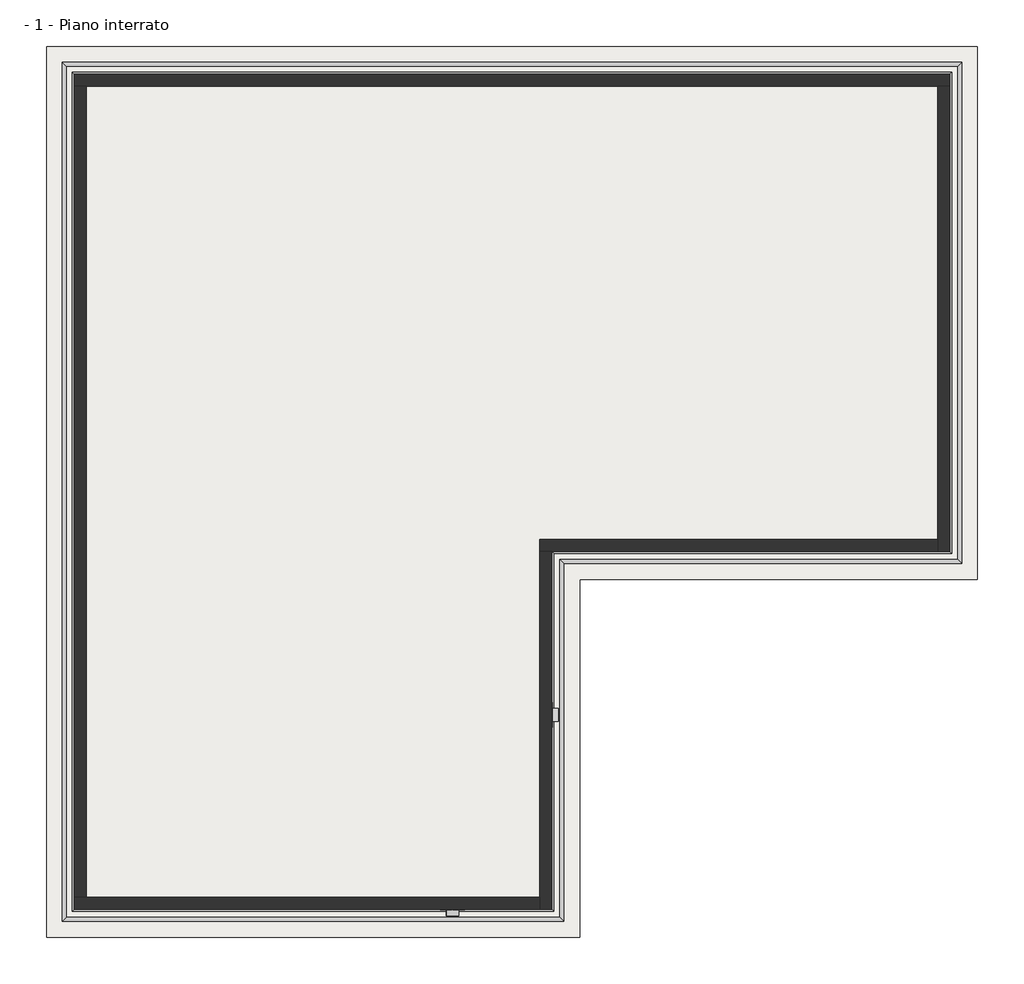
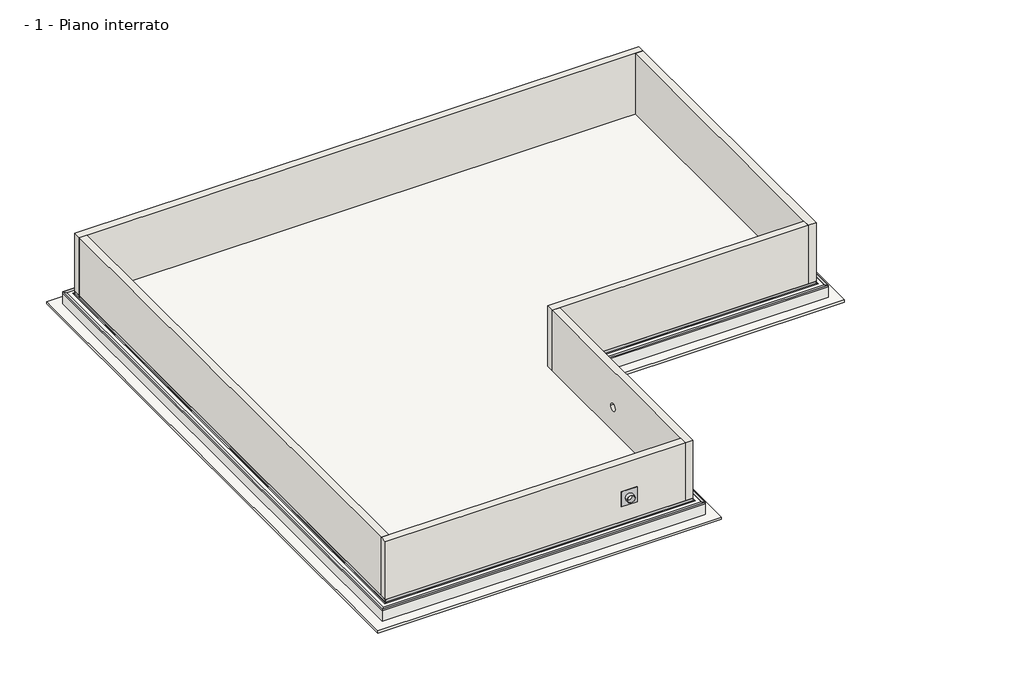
# One storey: 6 proxies, 6 walls, 2 slabs.
"""IFC4 building model written with IfcOpenShell, lengths in millimetres."""

from ifc_helpers import new_model, si_unit, frame, origin, place, context, project, spatial, polyline, circle_curve, outline, extrude, faceted_brep, transform, mapped, element, save
from ifc_brep_helpers import plane_surface, revolved_surface, advanced_brep
from components import generic_models_91e2fdae

model = new_model("IFC4")

# Units and contexts
model_context = context("Model", 3, world=origin())
ifc_project = project(units=[si_unit("LENGTHUNIT", "METRE", prefix="MILLI")], contexts=[model_context])

# Site, building, storey
site = spatial("IfcSite", under=ifc_project)
building = spatial("IfcBuilding", under=site)
storey = spatial("IfcBuildingStorey", under=building, Name="- 1 - Piano interrato", Elevation=-2500.0)

# Proxies
placement = place(None, origin())
element("IfcBuildingElementProxy", 1, Name="AMPHIBIA CORNER 90° VOLTECO", ObjectType="AMPHIBIA CORNER 90° VOLTECO", at=placement, inside=storey, context=model_context, shape_type="Brep", body=[
    faceted_brep([(14179.6527437, 12233.9025562, -2550.0), (14178.6527437, 12232.9025562, -2550.0), (-8421.3472563, 12232.9025562, -2550.0), (-8422.3472563, 12233.9025562, -2550.0), (14179.6527437, 12233.9025562, -2499.0), (-8422.3472563, 12233.9025562, -2499.0), (14078.6527437, 12132.9025562, -2499.0), (-8321.3472563, 12132.9025562, -2499.0), (14078.6527437, 12132.9025562, -2500.0), (-8321.3472563, 12132.9025562, -2500.0), (14178.6527437, 12232.9025562, -2500.0), (-8421.3472563, 12232.9025562, -2500.0), (-8421.3472563, -9367.0974438, -2550.0), (-8422.3472563, -9368.0974438, -2550.0), (-8422.3472563, -9368.0974438, -2499.0), (-8321.3472563, -9267.0974438, -2499.0), (-8321.3472563, -9267.0974438, -2500.0), (-8421.3472563, -9367.0974438, -2500.0), (4178.6527437, -9367.0974438, -2550.0), (4179.6527437, -9368.0974438, -2550.0), (4179.6527437, -9368.0974438, -2499.0), (4078.6527437, -9267.0974438, -2499.0), (4078.6527437, -9267.0974438, -2500.0), (4178.6527437, -9367.0974438, -2500.0), (4178.6527437, -367.0974438, -2550.0), (4179.6527437, -368.0974438, -2550.0), (4179.6527437, -368.0974438, -2499.0), (4078.6527437, -267.0974438, -2499.0), (4078.6527437, -267.0974438, -2500.0), (4178.6527437, -367.0974438, -2500.0), (14178.6527437, -367.0974438, -2550.0), (14179.6527437, -368.0974438, -2550.0), (14179.6527437, -368.0974438, -2499.0), (14078.6527437, -267.0974438, -2499.0), (14078.6527437, -267.0974438, -2500.0), (14178.6527437, -367.0974438, -2500.0)], [[[0, 1, 2, 3]], [[4, 0, 3, 5]], [[6, 4, 5, 7]], [[8, 6, 7, 9]], [[10, 8, 9, 11]], [[1, 10, 11, 2]], [[3, 2, 12, 13]], [[5, 3, 13, 14]], [[7, 5, 14, 15]], [[9, 7, 15, 16]], [[11, 9, 16, 17]], [[2, 11, 17, 12]], [[13, 12, 18, 19]], [[14, 13, 19, 20]], [[15, 14, 20, 21]], [[16, 15, 21, 22]], [[17, 16, 22, 23]], [[12, 17, 23, 18]], [[19, 18, 24, 25]], [[20, 19, 25, 26]], [[21, 20, 26, 27]], [[22, 21, 27, 28]], [[23, 22, 28, 29]], [[18, 23, 29, 24]], [[25, 24, 30, 31]], [[26, 25, 31, 32]], [[27, 26, 32, 33]], [[28, 27, 33, 34]], [[29, 28, 34, 35]], [[24, 29, 35, 30]], [[1, 0, 31, 30]], [[0, 4, 32, 31]], [[4, 6, 33, 32]], [[6, 8, 34, 33]], [[8, 10, 35, 34]], [[10, 1, 30, 35]]]),
])
element("IfcBuildingElementProxy", 2, Name="AKTI-VO 201 VOLTECO", ObjectType="AKTI-VO 201 VOLTECO", at=placement, inside=storey, context=model_context, shape_type="SweptSolid", body=[
    extrude(outline(polyline([(13902.5527437, 11956.8025562), (13903.5527437, 11957.8025562), (13903.5527437, -91.9974438), (13902.5527437, -90.9974438), (13902.5527437, 11956.8025562)])), frame((0.0, 0.0, -2500.0), z_axis=(0.0, 0.0, 1.0), x_axis=(1.0, 0.0, 0.0)), (0.0, 0.0, 1.0), 1.0),
    extrude(outline(polyline([(13902.5527437, -90.9974438), (13903.5527437, -91.9974438), (3903.5527437, -91.9974438), (3902.5527437, -90.9974438), (13902.5527437, -90.9974438)])), frame((0.0, 0.0, -2500.0), z_axis=(0.0, 0.0, 1.0), x_axis=(1.0, 0.0, 0.0)), (0.0, 0.0, 1.0), 1.0),
    extrude(outline(polyline([(3902.5527437, -90.9974438), (3903.5527437, -91.9974438), (3903.5527437, -9091.9974438), (3902.5527437, -9090.9974438), (3902.5527437, -90.9974438)])), frame((0.0, 0.0, -2500.0), z_axis=(0.0, 0.0, 1.0), x_axis=(1.0, 0.0, 0.0)), (0.0, 0.0, 1.0), 1.0),
    extrude(outline(polyline([(3902.5527437, -9090.9974438), (3903.5527437, -9091.9974438), (-8146.2472563, -9091.9974438), (-8145.2472563, -9090.9974438), (3902.5527437, -9090.9974438)])), frame((0.0, 0.0, -2500.0), z_axis=(0.0, 0.0, 1.0), x_axis=(1.0, 0.0, 0.0)), (0.0, 0.0, 1.0), 1.0),
    extrude(outline(polyline([(-8145.2472563, 11956.8025562), (-8146.2472563, 11957.8025562), (13903.5527437, 11957.8025562), (13902.5527437, 11956.8025562), (-8145.2472563, 11956.8025562)])), frame((0.0, 0.0, -2500.0), z_axis=(0.0, 0.0, 1.0), x_axis=(1.0, 0.0, 0.0)), (0.0, 0.0, 1.0), 1.0),
    extrude(outline(polyline([(-8145.2472563, -9090.9974438), (-8146.2472563, -9091.9974438), (-8146.2472563, 11957.8025562), (-8145.2472563, 11956.8025562), (-8145.2472563, -9090.9974438)])), frame((0.0, 0.0, -2500.0), z_axis=(0.0, 0.0, 1.0), x_axis=(1.0, 0.0, 0.0)), (0.0, 0.0, 1.0), 1.0),
])
element("IfcBuildingElementProxy", 3, Name="AMPHIBIA CORNER 270° VOLTECO", ObjectType="AMPHIBIA CORNER 270° VOLTECO", at=placement, inside=storey, context=model_context, shape_type="Brep", body=[
    faceted_brep([(13929.6527437, 11983.9025562, -2498.0), (13929.6527437, 11983.9025562, -2499.0), (13878.6527437, 11932.9025562, -2499.0), (13878.6527437, 11932.9025562, -2398.0), (13879.6527437, 11933.9025562, -2398.0), (13879.6527437, 11933.9025562, -2498.0), (13929.6527437, -118.0974438, -2498.0), (13879.6527437, -68.0974438, -2498.0), (13879.6527437, -68.0974438, -2398.0), (13878.6527437, -67.0974438, -2398.0), (13878.6527437, -67.0974438, -2499.0), (13929.6527437, -118.0974438, -2499.0)], [[[0, 1, 2, 3, 4, 5]], [[6, 7, 8, 9, 10, 11]], [[1, 0, 6, 11]], [[2, 1, 11, 10]], [[3, 2, 10, 9]], [[4, 3, 9, 8]], [[5, 4, 8, 7]], [[0, 5, 7, 6]]]),
    faceted_brep([(-8172.3472563, 11983.9025562, -2498.0), (-8172.3472563, 11983.9025562, -2499.0), (-8121.3472563, 11932.9025562, -2499.0), (-8121.3472563, 11932.9025562, -2398.0), (-8122.3472563, 11933.9025562, -2398.0), (-8122.3472563, 11933.9025562, -2498.0), (13929.6527437, 11983.9025562, -2498.0), (13879.6527437, 11933.9025562, -2498.0), (13879.6527437, 11933.9025562, -2398.0), (13878.6527437, 11932.9025562, -2398.0), (13878.6527437, 11932.9025562, -2499.0), (13929.6527437, 11983.9025562, -2499.0)], [[[0, 1, 2, 3, 4, 5]], [[6, 7, 8, 9, 10, 11]], [[1, 0, 6, 11]], [[2, 1, 11, 10]], [[3, 2, 10, 9]], [[4, 3, 9, 8]], [[5, 4, 8, 7]], [[0, 5, 7, 6]]]),
    faceted_brep([(-8172.3472563, -9118.0974438, -2498.0), (-8172.3472563, -9118.0974438, -2499.0), (-8121.3472563, -9067.0974438, -2499.0), (-8121.3472563, -9067.0974438, -2398.0), (-8122.3472563, -9068.0974438, -2398.0), (-8122.3472563, -9068.0974438, -2498.0), (-8172.3472563, 11983.9025562, -2498.0), (-8122.3472563, 11933.9025562, -2498.0), (-8122.3472563, 11933.9025562, -2398.0), (-8121.3472563, 11932.9025562, -2398.0), (-8121.3472563, 11932.9025562, -2499.0), (-8172.3472563, 11983.9025562, -2499.0)], [[[0, 1, 2, 3, 4, 5]], [[6, 7, 8, 9, 10, 11]], [[1, 0, 6, 11]], [[2, 1, 11, 10]], [[3, 2, 10, 9]], [[4, 3, 9, 8]], [[5, 4, 8, 7]], [[0, 5, 7, 6]]]),
    faceted_brep([(3929.6527437, -9118.0974438, -2498.0), (3929.6527437, -9118.0974438, -2499.0), (3878.6527437, -9067.0974438, -2499.0), (3878.6527437, -9067.0974438, -2398.0), (3879.6527437, -9068.0974438, -2398.0), (3879.6527437, -9068.0974438, -2498.0), (-8172.3472563, -9118.0974438, -2498.0), (-8122.3472563, -9068.0974438, -2498.0), (-8122.3472563, -9068.0974438, -2398.0), (-8121.3472563, -9067.0974438, -2398.0), (-8121.3472563, -9067.0974438, -2499.0), (-8172.3472563, -9118.0974438, -2499.0)], [[[0, 1, 2, 3, 4, 5]], [[6, 7, 8, 9, 10, 11]], [[1, 0, 6, 11]], [[2, 1, 11, 10]], [[3, 2, 10, 9]], [[4, 3, 9, 8]], [[5, 4, 8, 7]], [[0, 5, 7, 6]]]),
    faceted_brep([(3929.6527437, -118.0974438, -2498.0), (3929.6527437, -118.0974438, -2499.0), (3878.6527437, -67.0974438, -2499.0), (3878.6527437, -67.0974438, -2398.0), (3879.6527437, -68.0974438, -2398.0), (3879.6527437, -68.0974438, -2498.0), (3929.6527437, -9118.0974438, -2498.0), (3879.6527437, -9068.0974438, -2498.0), (3879.6527437, -9068.0974438, -2398.0), (3878.6527437, -9067.0974438, -2398.0), (3878.6527437, -9067.0974438, -2499.0), (3929.6527437, -9118.0974438, -2499.0)], [[[0, 1, 2, 3, 4, 5]], [[6, 7, 8, 9, 10, 11]], [[1, 0, 6, 11]], [[2, 1, 11, 10]], [[3, 2, 10, 9]], [[4, 3, 9, 8]], [[5, 4, 8, 7]], [[0, 5, 7, 6]]]),
    faceted_brep([(13929.6527437, -118.0974438, -2498.0), (13929.6527437, -118.0974438, -2499.0), (13878.6527437, -67.0974438, -2499.0), (13878.6527437, -67.0974438, -2398.0), (13879.6527437, -68.0974438, -2398.0), (13879.6527437, -68.0974438, -2498.0), (3929.6527437, -118.0974438, -2498.0), (3879.6527437, -68.0974438, -2498.0), (3879.6527437, -68.0974438, -2398.0), (3878.6527437, -67.0974438, -2398.0), (3878.6527437, -67.0974438, -2499.0), (3929.6527437, -118.0974438, -2499.0)], [[[0, 1, 2, 3, 4, 5]], [[6, 7, 8, 9, 10, 11]], [[1, 0, 6, 11]], [[2, 1, 11, 10]], [[3, 2, 10, 9]], [[4, 3, 9, 8]], [[5, 4, 8, 7]], [[0, 5, 7, 6]]]),
])
element("IfcBuildingElementProxy", 4, Name="WT 102 Volteco", ObjectType="WT 102 Volteco", at=placement, inside=storey, context=model_context, shape_type="SweptSolid", body=[
    extrude(outline(polyline([(3718.6527437, 92.9025562), (3738.6527437, 72.9025562), (3738.6527437, -8927.0974438), (3718.6527437, -8907.0974438), (3718.6527437, 92.9025562)])), frame((0.0, 0.0, -2500.0), z_axis=(0.0, 0.0, 1.0), x_axis=(1.0, 0.0, 0.0)), (0.0, 0.0, 1.0), 20.0),
    extrude(outline(polyline([(3718.6527437, -8907.0974438), (3738.6527437, -8927.0974438), (-7981.3472563, -8927.0974438), (-7961.3472563, -8907.0974438), (3718.6527437, -8907.0974438)])), frame((0.0, 0.0, -2500.0), z_axis=(0.0, 0.0, 1.0), x_axis=(1.0, 0.0, 0.0)), (0.0, 0.0, 1.0), 20.0),
    extrude(outline(polyline([(-7961.3472563, -8907.0974438), (-7981.3472563, -8927.0974438), (-7981.3472563, 11792.9025562), (-7961.3472563, 11772.9025562), (-7961.3472563, -8907.0974438)])), frame((0.0, 0.0, -2500.0), z_axis=(0.0, 0.0, 1.0), x_axis=(1.0, 0.0, 0.0)), (0.0, 0.0, 1.0), 20.0),
    extrude(outline(polyline([(-7961.3472563, 11772.9025562), (-7981.3472563, 11792.9025562), (13738.6527437, 11792.9025562), (13718.6527437, 11772.9025562), (-7961.3472563, 11772.9025562)])), frame((0.0, 0.0, -2500.0), z_axis=(0.0, 0.0, 1.0), x_axis=(1.0, 0.0, 0.0)), (0.0, 0.0, 1.0), 20.0),
    extrude(outline(polyline([(13718.6527437, 11772.9025562), (13738.6527437, 11792.9025562), (13738.6527437, 72.9025562), (13718.6527437, 92.9025562), (13718.6527437, 11772.9025562)])), frame((0.0, 0.0, -2500.0), z_axis=(0.0, 0.0, 1.0), x_axis=(1.0, 0.0, 0.0)), (0.0, 0.0, 1.0), 20.0),
    extrude(outline(polyline([(13718.6527437, 92.9025562), (13738.6527437, 72.9025562), (3738.6527437, 72.9025562), (3718.6527437, 92.9025562), (13718.6527437, 92.9025562)])), frame((0.0, 0.0, -2500.0), z_axis=(0.0, 0.0, 1.0), x_axis=(1.0, 0.0, 0.0)), (0.0, 0.0, 1.0), 20.0),
])
generic_models_shape = generic_models_91e2fdae(model_context)
element("IfcBuildingElementProxy", 5, Name="ENG-Volteco_Amphibia Pipe : ENG-Volteco_Amphibia Pipe", ObjectType="ENG-Volteco_Amphibia Pipe : ENG-Volteco_Amphibia Pipe", at=placement, inside=storey, context=model_context, shape_type="MappedRepresentation", body=[
    mapped(generic_models_shape, transform((3878.6527437, -4175.0974438, -1509.7375596), x_axis=(0.0, 1.0, 0.0), y_axis=(0.0, 0.0, 1.0), z_axis=(1.0, 0.0, 0.0))),
])
element("IfcBuildingElementProxy", 6, Name="ENG-Volteco_Amphibia Pipe : ENG-Volteco_Amphibia Pipe", ObjectType="ENG-Volteco_Amphibia Pipe : ENG-Volteco_Amphibia Pipe", at=placement, inside=storey, context=model_context, shape_type="MappedRepresentation", body=[
    mapped(generic_models_shape, transform((1381.6527437, -9067.0974438, -1461.6877544), x_axis=(1.0, 0.0, 0.0), y_axis=(0.0, 0.0, 1.0), z_axis=(0.0, -1.0, 0.0))),
])

# Slabs
element("IfcSlab", 7, ObjectType="Blinding concrete - 10 cm", at=placement, inside=storey, context=model_context, shape_type="SweptSolid", body=[
    extrude(outline(polyline([(14578.6527437, 12632.9025562), (14578.6527437, -767.0974438), (4578.6527437, -767.0974438), (4578.6527437, -9767.0974438), (-8821.3472563, -9767.0974438), (-8821.3472563, 12632.9025562), (14578.6527437, 12632.9025562)])), frame((0.0, 0.0, -3100.0), z_axis=(0.0, 0.0, 1.0), x_axis=(1.0, 0.0, 0.0)), (0.0, 0.0, 1.0), 100.0),
])
element("IfcSlab", 8, ObjectType="Raft foundation - 50 cm", at=placement, inside=storey, context=model_context, shape_type="Brep", body=[
    faceted_brep([(14178.6527437, 12232.9025562, -3000.0), (14178.6527437, -367.0974438, -3000.0), (4178.6527437, -367.0974438, -3000.0), (4178.6527437, -9367.0974438, -3000.0), (-8421.3472563, -9367.0974438, -3000.0), (-8421.3472563, 12232.9025562, -3000.0), (14178.6527437, 12232.9025562, -2500.0), (-8421.3472563, 12232.9025562, -2500.0), (-8421.3472563, -9367.0974438, -2500.0), (4178.6527437, -9367.0974438, -2500.0), (4178.6527437, -367.0974438, -2500.0), (14178.6527437, -367.0974438, -2500.0), (14178.6527437, 12232.9025562, -2550.0), (14178.6527437, -367.0974438, -2550.0), (4178.6527437, -367.0974438, -2550.0), (4178.6527437, -9367.0974438, -2550.0), (-8421.3472563, -9367.0974438, -2550.0), (-8421.3472563, 12232.9025562, -2550.0)], [[[0, 1, 2, 3, 4, 5]], [[6, 7, 8, 9, 10, 11]], [[1, 0, 12, 6, 11, 13]], [[2, 1, 13, 11, 10, 14]], [[3, 2, 14, 10, 9, 15]], [[4, 3, 15, 9, 8, 16]], [[5, 4, 16, 8, 7, 17]], [[0, 5, 17, 7, 6, 12]]]),
])

# Walls
element("IfcWall", 9, ObjectType="Foundation walls - 30 cm", at=placement, inside=storey, context=model_context, shape_type="Brep", body=[
    faceted_brep([(13878.6527437, 11632.9025562, 0.0), (13578.6527437, 11632.9025562, 0.0), (-7821.3472563, 11632.9025562, 0.0), (-8121.3472563, 11632.9025562, 0.0), (-8121.3472563, 11632.9025562, -60.0), (-8121.3472563, 11632.9025562, -2398.0), (-8121.3472563, 11632.9025562, -2499.0), (-8121.3472563, 11632.9025562, -2500.0), (-7981.3472563, 11632.9025562, -2500.0), (-7981.3472563, 11632.9025562, -2480.0), (-7961.3472563, 11632.9025562, -2480.0), (-7961.3472563, 11632.9025562, -2500.0), (-7821.3472563, 11632.9025562, -2500.0), (13578.6527437, 11632.9025562, -2500.0), (13718.6527437, 11632.9025562, -2500.0), (13718.6527437, 11632.9025562, -2480.0), (13738.6527437, 11632.9025562, -2480.0), (13738.6527437, 11632.9025562, -2500.0), (13878.6527437, 11632.9025562, -2500.0), (13878.6527437, 11632.9025562, -2499.0), (13878.6527437, 11632.9025562, -2398.0), (13878.6527437, 11632.9025562, -60.0), (-8121.3472563, 11932.9025562, 0.0), (13878.6527437, 11932.9025562, 0.0), (13878.6527437, 11932.9025562, -60.0), (13878.6527437, 11932.9025562, -2398.0), (13878.6527437, 11932.9025562, -2499.0), (13878.6527437, 11932.9025562, -2500.0), (-8121.3472563, 11932.9025562, -2500.0), (-8121.3472563, 11932.9025562, -2499.0), (-8121.3472563, 11932.9025562, -2398.0), (-8121.3472563, 11932.9025562, -60.0), (13738.6527437, 11792.9025562, -2500.0), (-7981.3472563, 11792.9025562, -2500.0), (-7961.3472563, 11772.9025562, -2500.0), (13718.6527437, 11772.9025562, -2500.0), (-7961.3472563, 11772.9025562, -2480.0), (13718.6527437, 11772.9025562, -2480.0), (-7981.3472563, 11792.9025562, -2480.0), (13738.6527437, 11792.9025562, -2480.0)], [[[0, 1, 2, 3, 4, 5, 6, 7, 8, 9, 10, 11, 12, 13, 14, 15, 16, 17, 18, 19, 20, 21]], [[22, 23, 24, 25, 26, 27, 28, 29, 30, 31]], [[3, 2, 1, 0, 23, 22]], [[23, 0, 21, 20, 19, 18, 27, 26, 25, 24]], [[3, 22, 31, 30, 29, 28, 7, 6, 5, 4]], [[7, 28, 27, 18, 17, 32, 33, 8]], [[14, 13, 12, 11, 34, 35]], [[10, 36, 34, 11]], [[15, 37, 36, 10, 9, 38, 39, 16]], [[35, 37, 15, 14]], [[37, 35, 34, 36]], [[33, 38, 9, 8]], [[39, 38, 33, 32]], [[39, 32, 17, 16]]]),
])
element("IfcWall", 10, ObjectType="Foundation walls - 30 cm", at=placement, inside=storey, context=model_context, shape_type="Brep", body=[
    faceted_brep([(13578.6527437, -67.0974438, 0.0), (13578.6527437, 232.9025562, 0.0), (13578.6527437, 11632.9025562, 0.0), (13578.6527437, 11632.9025562, -2500.0), (13578.6527437, 232.9025562, -2500.0), (13578.6527437, 92.9025562, -2500.0), (13578.6527437, 92.9025562, -2480.0), (13578.6527437, 72.9025562, -2480.0), (13578.6527437, 72.9025562, -2500.0), (13578.6527437, -67.0974438, -2500.0), (13578.6527437, -67.0974438, -2499.0), (13578.6527437, -67.0974438, -2398.0), (13578.6527437, -67.0974438, -60.0), (13878.6527437, 11632.9025562, 0.0), (13878.6527437, -67.0974438, 0.0), (13878.6527437, -67.0974438, -60.0), (13878.6527437, -67.0974438, -2398.0), (13878.6527437, -67.0974438, -2499.0), (13878.6527437, -67.0974438, -2500.0), (13878.6527437, 11632.9025562, -2500.0), (13878.6527437, 11632.9025562, -2499.0), (13878.6527437, 11632.9025562, -2398.0), (13878.6527437, 11632.9025562, -60.0), (13738.6527437, 11632.9025562, -2500.0), (13738.6527437, 11632.9025562, -2480.0), (13718.6527437, 11632.9025562, -2480.0), (13718.6527437, 11632.9025562, -2500.0), (13738.6527437, 72.9025562, -2500.0), (13718.6527437, 92.9025562, -2500.0), (13718.6527437, 92.9025562, -2480.0), (13738.6527437, 72.9025562, -2480.0)], [[[0, 1, 2, 3, 4, 5, 6, 7, 8, 9, 10, 11, 12]], [[13, 14, 15, 16, 17, 18, 19, 20, 21, 22]], [[2, 1, 0, 14, 13]], [[3, 2, 13, 22, 21, 20, 19, 23, 24, 25, 26]], [[14, 0, 12, 11, 10, 9, 18, 17, 16, 15]], [[19, 18, 9, 8, 27, 23]], [[5, 4, 3, 26, 28]], [[6, 29, 25, 24, 30, 7]], [[28, 29, 6, 5]], [[29, 28, 26, 25]], [[27, 30, 24, 23]], [[30, 27, 8, 7]]]),
])
element("IfcWall", 11, ObjectType="Foundation walls - 30 cm", at=placement, inside=storey, context=model_context, shape_type="Brep", body=[
    faceted_brep([(3578.6527437, 232.9025562, 0.0), (13578.6527437, 232.9025562, 0.0), (13578.6527437, 232.9025562, -2500.0), (3578.6527437, 232.9025562, -2500.0), (3578.6527437, -67.0974438, 0.0), (3578.6527437, -67.0974438, -2500.0), (3718.6527437, -67.0974438, -2500.0), (3718.6527437, -67.0974438, -2480.0), (3738.6527437, -67.0974438, -2480.0), (3738.6527437, -67.0974438, -2500.0), (3878.6527437, -67.0974438, -2500.0), (13578.6527437, -67.0974438, -2500.0), (13578.6527437, -67.0974438, -2499.0), (13578.6527437, -67.0974438, -2398.0), (13578.6527437, -67.0974438, -60.0), (13578.6527437, -67.0974438, 0.0), (3878.6527437, -67.0974438, 0.0), (13578.6527437, 72.9025562, -2500.0), (13578.6527437, 72.9025562, -2480.0), (13578.6527437, 92.9025562, -2480.0), (13578.6527437, 92.9025562, -2500.0), (3718.6527437, 92.9025562, -2500.0), (3738.6527437, 72.9025562, -2500.0), (3718.6527437, 92.9025562, -2480.0), (3738.6527437, 72.9025562, -2480.0)], [[[0, 1, 2, 3]], [[4, 5, 6, 7, 8, 9, 10, 11, 12, 13, 14, 15, 16]], [[1, 0, 4, 16, 15]], [[2, 1, 15, 14, 13, 12, 11, 17, 18, 19, 20]], [[0, 3, 5, 4]], [[3, 2, 20, 21, 6, 5]], [[11, 10, 9, 22, 17]], [[7, 23, 19, 18, 24, 8]], [[21, 23, 7, 6]], [[23, 21, 20, 19]], [[22, 24, 18, 17]], [[24, 22, 9, 8]]]),
])
element("IfcWall", 12, ObjectType="Foundation walls - 30 cm", at=placement, inside=storey, context=model_context, shape_type="AdvancedBrep", body=[
    advanced_brep(
    [(3578.6527437, -9067.0974438, 0.0), (3578.6527437, -8767.0974438, 0.0), (3578.6527437, -67.0974438, 0.0), (3578.6527437, -67.0974438, -2500.0), (3578.6527437, -8767.0974438, -2500.0), (3578.6527437, -8907.0974438, -2500.0), (3578.6527437, -8907.0974438, -2480.0), (3578.6527437, -8927.0974438, -2480.0), (3578.6527437, -8927.0974438, -2500.0), (3578.6527437, -9067.0974438, -2500.0), (3578.6527437, -9067.0974438, -2499.0), (3578.6527437, -9067.0974438, -2398.0), (3578.6527437, -9067.0974438, -60.0), (3578.6527437, -4325.0974438, -1509.7375596), (3578.6527437, -4025.0974438, -1509.7375596), (3878.6527437, -67.0974438, 0.0), (3878.6527437, -9067.0974438, 0.0), (3878.6527437, -9067.0974438, -60.0), (3878.6527437, -9067.0974438, -2398.0), (3878.6527437, -9067.0974438, -2499.0), (3878.6527437, -9067.0974438, -2500.0), (3878.6527437, -67.0974438, -2500.0), (3878.6527437, -67.0974438, -2499.0), (3878.6527437, -67.0974438, -2398.0), (3878.6527437, -67.0974438, -60.0), (3878.6527437, -4025.0974438, -1509.7375596), (3878.6527437, -4325.0974438, -1509.7375596), (3738.6527437, -67.0974438, -2500.0), (3738.6527437, -67.0974438, -2480.0), (3718.6527437, -67.0974438, -2480.0), (3718.6527437, -67.0974438, -2500.0), (3738.6527437, -8927.0974438, -2500.0), (3718.6527437, -8907.0974438, -2500.0), (3718.6527437, -8907.0974438, -2480.0), (3738.6527437, -8927.0974438, -2480.0)],
    [
        (0, 1),
        (1, 2),
        (2, 3),
        (3, 4),
        (4, 5),
        (5, 6),
        (6, 7),
        (7, 8),
        (8, 9),
        (9, 10),
        (10, 11),
        (11, 12),
        (12, 0),
        (13, 14, circle_curve(frame((3578.6527437, -4175.0974438, -1509.7375596), z_axis=(1.0, 0.0, 0.0), x_axis=(0.0, 1.0, 0.0)), 150.0)),
        (14, 13, circle_curve(frame((3578.6527437, -4175.0974438, -1509.7375596), z_axis=(1.0, 0.0, 0.0), x_axis=(0.0, 1.0, 0.0)), 150.0)),
        (15, 16),
        (16, 17),
        (17, 18),
        (18, 19),
        (19, 20),
        (20, 21),
        (21, 22),
        (22, 23),
        (23, 24),
        (24, 15),
        (25, 26, circle_curve(frame((3878.6527437, -4175.0974438, -1509.7375596), z_axis=(-1.0, 0.0, 0.0), x_axis=(0.0, 1.0, 0.0)), 150.0)),
        (26, 25, circle_curve(frame((3878.6527437, -4175.0974438, -1509.7375596), z_axis=(-1.0, 0.0, 0.0), x_axis=(0.0, 1.0, 0.0)), 150.0)),
        (0, 16),
        (15, 2),
        (21, 27),
        (27, 28),
        (28, 29),
        (29, 30),
        (30, 3),
        (9, 20),
        (8, 31),
        (31, 27),
        (30, 32),
        (32, 5),
        (13, 26),
        (25, 14),
        (6, 33),
        (33, 29),
        (28, 34),
        (34, 7),
        (32, 33),
        (31, 34),
    ],
    [
        plane_surface(frame((3578.6527437, -67.0974438, -2500.0), z_axis=(-1.0, 0.0, 0.0), x_axis=(0.0, -1.0, 0.0))),
        plane_surface(frame((3878.6527437, -67.0974438, -2500.0), z_axis=(1.0, 0.0, 0.0), x_axis=(0.0, 1.0, 0.0))),
        plane_surface(frame((3578.6527437, -8917.0974438, 0.0), z_axis=(0.0, 0.0, 1.0), x_axis=(1.0, 0.0, 0.0))),
        plane_surface(frame((13878.6527437, -67.0974438, -2500.0), z_axis=(0.0, 1.0, 0.0), x_axis=(1.0, 0.0, 0.0))),
        plane_surface(frame((3878.6527437, -9067.0974438, -2500.0), z_axis=(0.0, -1.0, 0.0), x_axis=(1.0, 0.0, 0.0))),
        plane_surface(frame((14178.6527437, 11932.9025562, -2500.0), z_axis=(0.0, 0.0, -1.0), x_axis=(0.0, 1.0, 0.0))),
        revolved_surface(polyline([(3878.6527437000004, -4025.0974438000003, -1509.7375596), (3578.6527437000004, -4025.0974438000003, -1509.7375596)]), (1286.2890556, -4175.0974438, -1509.7375596), (1.0, 0.0, 0.0)),
        plane_surface(frame((13878.6527437, 92.9025562, -2480.0), z_axis=(0.0, 0.0, -1.0), x_axis=(-1.0, 0.0, 0.0))),
        plane_surface(frame((3718.6527437, -8907.0974438, -2500.0), z_axis=(0.0, -1.0, 0.0), x_axis=(-1.0, 0.0, 0.0))),
        plane_surface(frame((3718.6527437, 92.9025562, -2500.0), z_axis=(1.0, 0.0, 0.0), x_axis=(0.0, -1.0, 0.0))),
        plane_surface(frame((3738.6527437, 72.9025562, -2480.0), z_axis=(-1.0, 0.0, 0.0), x_axis=(0.0, -1.0, 0.0))),
        plane_surface(frame((3738.6527437, -8927.0974438, -2480.0), z_axis=(0.0, 1.0, 0.0), x_axis=(-1.0, 0.0, 0.0))),
    ],
    [
        (0, [[1, 2, 3, 4, 5, 6, 7, 8, 9, 10, 11, 12, 13], [14, 15]]),
        (1, [[16, 17, 18, 19, 20, 21, 22, 23, 24, 25], [26, 27]]),
        (2, [[-2, -1, 28, -16, 29]]),
        (3, [[-3, -29, -25, -24, -23, -22, 30, 31, 32, 33, 34]]),
        (4, [[-28, -13, -12, -11, -10, 35, -20, -19, -18, -17]]),
        (5, [[-21, -35, -9, 36, 37, -30]]),
        (5, [[-5, -4, -34, 38, 39]]),
        (6, [[40, -26, 41, -14]]),
        (6, [[-40, -15, -41, -27]]),
        (7, [[42, 43, -32, 44, 45, -7]]),
        (8, [[46, -42, -6, -39]]),
        (9, [[-46, -38, -33, -43]]),
        (10, [[47, -44, -31, -37]]),
        (11, [[-47, -36, -8, -45]]),
    ],
),
])
element("IfcWall", 13, ObjectType="Foundation walls - 30 cm", at=placement, inside=storey, context=model_context, shape_type="AdvancedBrep", body=[
    advanced_brep(
    [(-8121.3472563, -8767.0974438, 0.0), (-7821.3472563, -8767.0974438, 0.0), (3578.6527437, -8767.0974438, 0.0), (3578.6527437, -8767.0974438, -2500.0), (-7821.3472563, -8767.0974438, -2500.0), (-7961.3472563, -8767.0974438, -2500.0), (-7961.3472563, -8767.0974438, -2480.0), (-7981.3472563, -8767.0974438, -2480.0), (-7981.3472563, -8767.0974438, -2500.0), (-8121.3472563, -8767.0974438, -2500.0), (-8121.3472563, -8767.0974438, -2499.0), (-8121.3472563, -8767.0974438, -2398.0), (-8121.3472563, -8767.0974438, -60.0), (1231.6527437, -8767.0974438, -1461.6877544), (1531.6527437, -8767.0974438, -1461.6877544), (3578.6527437, -9067.0974438, 0.0), (-8121.3472563, -9067.0974438, 0.0), (-8121.3472563, -9067.0974438, -60.0), (-8121.3472563, -9067.0974438, -2398.0), (-8121.3472563, -9067.0974438, -2499.0), (-8121.3472563, -9067.0974438, -2500.0), (3578.6527437, -9067.0974438, -2500.0), (3578.6527437, -9067.0974438, -2499.0), (3578.6527437, -9067.0974438, -2398.0), (3578.6527437, -9067.0974438, -60.0), (1531.6527437, -9067.0974438, -1461.6877544), (1231.6527437, -9067.0974438, -1461.6877544), (3578.6527437, -8927.0974438, -2500.0), (3578.6527437, -8927.0974438, -2480.0), (3578.6527437, -8907.0974438, -2480.0), (3578.6527437, -8907.0974438, -2500.0), (-7981.3472563, -8927.0974438, -2500.0), (-7961.3472563, -8907.0974438, -2500.0), (-7961.3472563, -8907.0974438, -2480.0), (-7981.3472563, -8927.0974438, -2480.0)],
    [
        (0, 1),
        (1, 2),
        (2, 3),
        (3, 4),
        (4, 5),
        (5, 6),
        (6, 7),
        (7, 8),
        (8, 9),
        (9, 10),
        (10, 11),
        (11, 12),
        (12, 0),
        (13, 14, circle_curve(frame((1381.6527437, -8767.0974438, -1461.6877544), z_axis=(0.0, -1.0, 0.0), x_axis=(1.0, 0.0, 0.0)), 150.0)),
        (14, 13, circle_curve(frame((1381.6527437, -8767.0974438, -1461.6877544), z_axis=(0.0, -1.0, 0.0), x_axis=(1.0, 0.0, 0.0)), 150.0)),
        (15, 16),
        (16, 17),
        (17, 18),
        (18, 19),
        (19, 20),
        (20, 21),
        (21, 22),
        (22, 23),
        (23, 24),
        (24, 15),
        (25, 26, circle_curve(frame((1381.6527437, -9067.0974438, -1461.6877544), z_axis=(0.0, 1.0, 0.0), x_axis=(1.0, 0.0, 0.0)), 150.0)),
        (26, 25, circle_curve(frame((1381.6527437, -9067.0974438, -1461.6877544), z_axis=(0.0, 1.0, 0.0), x_axis=(1.0, 0.0, 0.0)), 150.0)),
        (0, 16),
        (15, 2),
        (21, 27),
        (27, 28),
        (28, 29),
        (29, 30),
        (30, 3),
        (9, 20),
        (8, 31),
        (31, 27),
        (30, 32),
        (32, 5),
        (13, 26),
        (25, 14),
        (6, 33),
        (33, 29),
        (28, 34),
        (34, 7),
        (32, 33),
        (31, 34),
    ],
    [
        plane_surface(frame((3878.6527437, -8767.0974438, -2500.0), z_axis=(0.0, 1.0, 0.0), x_axis=(-1.0, 0.0, 0.0))),
        plane_surface(frame((3878.6527437, -9067.0974438, -2500.0), z_axis=(0.0, -1.0, 0.0), x_axis=(1.0, 0.0, 0.0))),
        plane_surface(frame((-7971.3472563, -8767.0974438, 0.0), z_axis=(0.0, 0.0, 1.0), x_axis=(0.0, -1.0, 0.0))),
        plane_surface(frame((3578.6527437, -67.0974438, -2500.0), z_axis=(1.0, 0.0, 0.0), x_axis=(0.0, -1.0, 0.0))),
        plane_surface(frame((-8121.3472563, -9067.0974438, -2500.0), z_axis=(-1.0, 0.0, 0.0), x_axis=(0.0, -1.0, 0.0))),
        plane_surface(frame((14178.6527437, 11932.9025562, -2500.0), z_axis=(0.0, 0.0, -1.0), x_axis=(0.0, 1.0, 0.0))),
        revolved_surface(polyline([(1531.6527437, -9067.0974438, -1461.6877544), (1531.6527437, -8767.0974438, -1461.6877544)]), (1381.6527437, -6474.7337557, -1461.6877544), (0.0, -1.0, 0.0)),
        plane_surface(frame((3718.6527437, -67.0974438, -2480.0), z_axis=(0.0, 0.0, -1.0), x_axis=(0.0, -1.0, 0.0))),
        plane_surface(frame((-7961.3472563, -8907.0974438, -2500.0), z_axis=(-1.0, 0.0, 0.0), x_axis=(0.0, 1.0, 0.0))),
        plane_surface(frame((3718.6527437, -8907.0974438, -2500.0), z_axis=(0.0, -1.0, 0.0), x_axis=(-1.0, 0.0, 0.0))),
        plane_surface(frame((3738.6527437, -8927.0974438, -2480.0), z_axis=(0.0, 1.0, 0.0), x_axis=(-1.0, 0.0, 0.0))),
        plane_surface(frame((-7981.3472563, -8927.0974438, -2480.0), z_axis=(1.0, 0.0, 0.0), x_axis=(0.0, 1.0, 0.0))),
    ],
    [
        (0, [[1, 2, 3, 4, 5, 6, 7, 8, 9, 10, 11, 12, 13], [14, 15]]),
        (1, [[16, 17, 18, 19, 20, 21, 22, 23, 24, 25], [26, 27]]),
        (2, [[-2, -1, 28, -16, 29]]),
        (3, [[-3, -29, -25, -24, -23, -22, 30, 31, 32, 33, 34]]),
        (4, [[-28, -13, -12, -11, -10, 35, -20, -19, -18, -17]]),
        (5, [[-21, -35, -9, 36, 37, -30]]),
        (5, [[-5, -4, -34, 38, 39]]),
        (6, [[40, -26, 41, -14]]),
        (6, [[-40, -15, -41, -27]]),
        (7, [[42, 43, -32, 44, 45, -7]]),
        (8, [[46, -42, -6, -39]]),
        (9, [[-46, -38, -33, -43]]),
        (10, [[47, -44, -31, -37]]),
        (11, [[-47, -36, -8, -45]]),
    ],
),
])
element("IfcWall", 14, ObjectType="Foundation walls - 30 cm", at=placement, inside=storey, context=model_context, shape_type="Brep", body=[
    faceted_brep([(-7821.3472563, 11632.9025562, 0.0), (-7821.3472563, -8767.0974438, 0.0), (-7821.3472563, -8767.0974438, -2500.0), (-7821.3472563, 11632.9025562, -2500.0), (-8121.3472563, -8767.0974438, 0.0), (-8121.3472563, 11632.9025562, 0.0), (-8121.3472563, 11632.9025562, -60.0), (-8121.3472563, 11632.9025562, -2398.0), (-8121.3472563, 11632.9025562, -2499.0), (-8121.3472563, 11632.9025562, -2500.0), (-8121.3472563, -8767.0974438, -2500.0), (-8121.3472563, -8767.0974438, -2499.0), (-8121.3472563, -8767.0974438, -2398.0), (-8121.3472563, -8767.0974438, -60.0), (-7961.3472563, 11632.9025562, -2500.0), (-7961.3472563, 11632.9025562, -2480.0), (-7981.3472563, 11632.9025562, -2480.0), (-7981.3472563, 11632.9025562, -2500.0), (-7981.3472563, -8767.0974438, -2500.0), (-7981.3472563, -8767.0974438, -2480.0), (-7961.3472563, -8767.0974438, -2480.0), (-7961.3472563, -8767.0974438, -2500.0)], [[[0, 1, 2, 3]], [[4, 5, 6, 7, 8, 9, 10, 11, 12, 13]], [[1, 0, 5, 4]], [[0, 3, 14, 15, 16, 17, 9, 8, 7, 6, 5]], [[2, 1, 4, 13, 12, 11, 10, 18, 19, 20, 21]], [[3, 2, 21, 14]], [[10, 9, 17, 18]], [[16, 15, 20, 19]], [[20, 15, 14, 21]], [[16, 19, 18, 17]]]),
])

save(model, "model.ifc")
